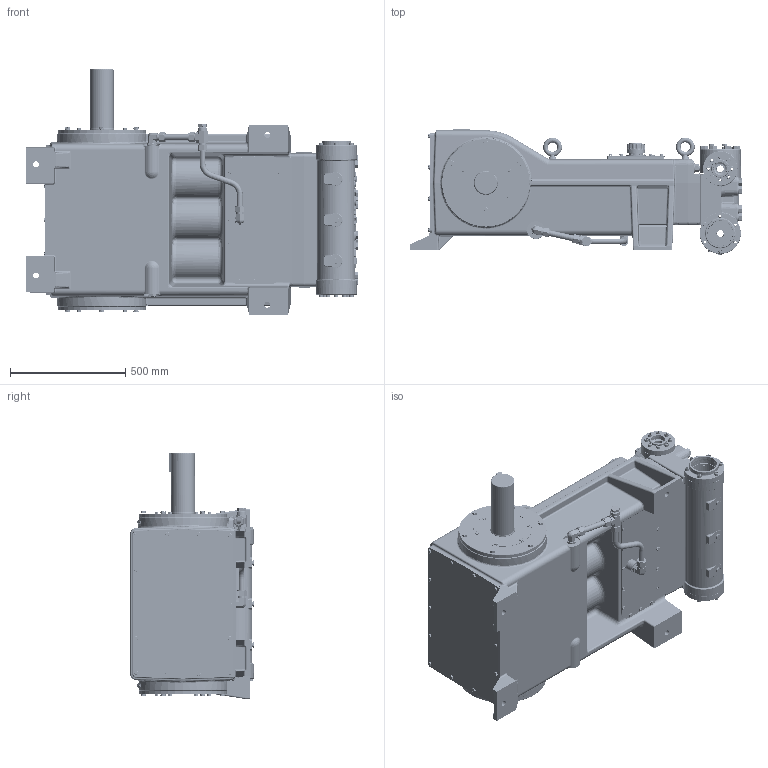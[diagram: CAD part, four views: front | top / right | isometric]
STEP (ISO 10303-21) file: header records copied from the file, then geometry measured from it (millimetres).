
FILE_DESCRIPTION (( 'STEP AP214' ), '1' );
FILE_NAME ('T200-M-outline.STEP', '2019-02-28T19:58:20', ( '' ), ( '' ), 'SwSTEP 2.0', 'SolidWorks 2018', '' );
FILE_SCHEMA (( 'AUTOMOTIVE_DESIGN' ));
Length unit declared in the file: inch
Products named in the file (1): T200-M-outline
Bounding box: 1440.63 x 541.81 x 1068.07 mm (x, y, z)
Surface area: 5759145 mm2 (no closed solid volume)
Topology: 0 solids, 289 shells, 4308 faces, 13162 edges, 8565 vertices
Faces by surface type: plane 1636, cylinder 1033, cone 697, bspline 623, torus 174, sphere 145
Entity records: 251393 total; most frequent: CARTESIAN_POINT 88466, DIRECTION 21247, ORIENTED_EDGE 20815, EDGE_CURVE 13097, VERTEX_POINT 8559, AXIS2_PLACEMENT_3D 8324, EDGE_LOOP 4788, CIRCLE 4638
